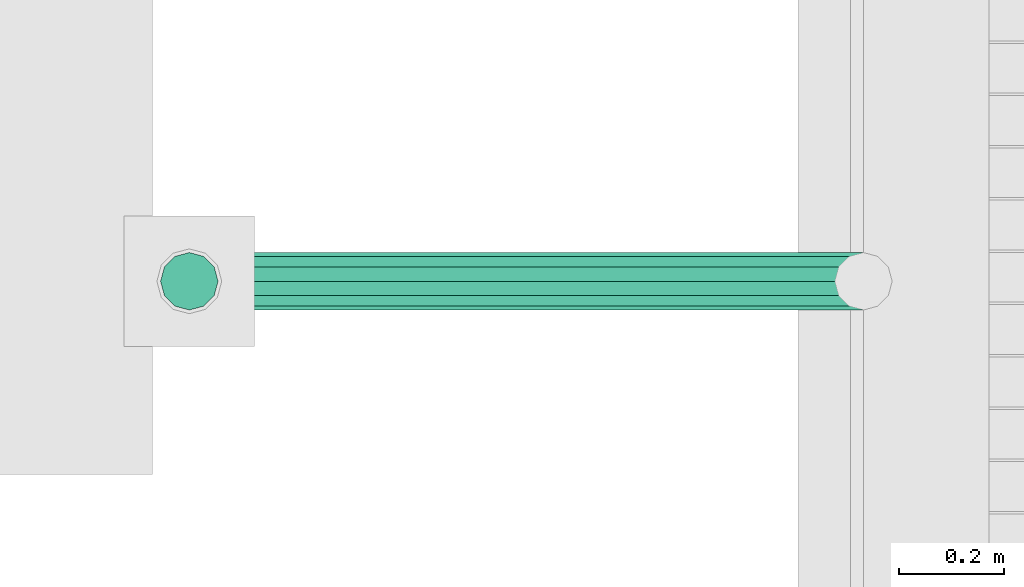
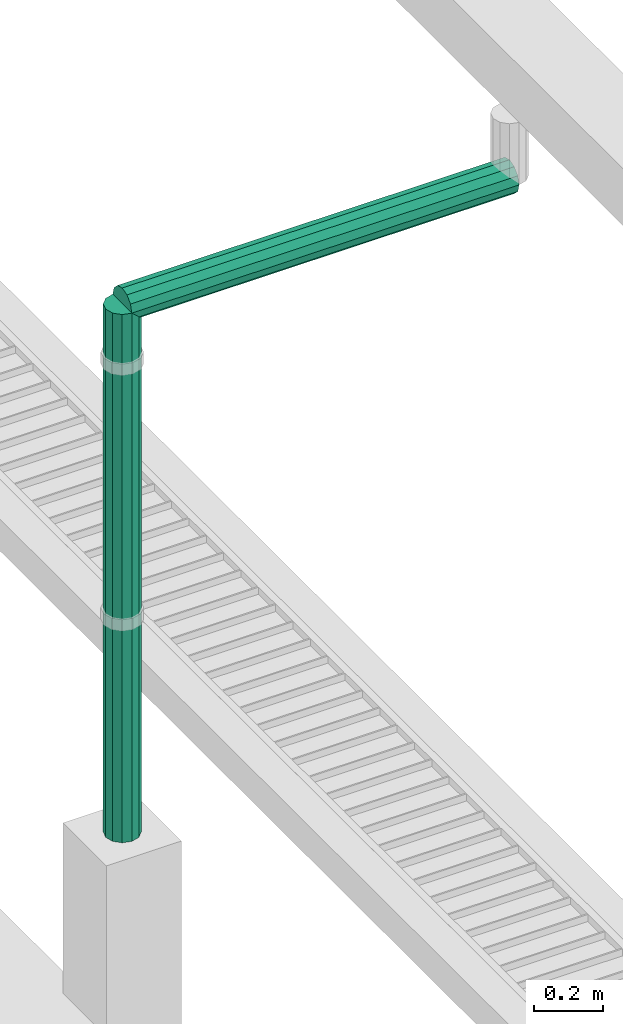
# One storey, part 46 of 90: 2 flow segments.
"""IFC2X3 building model written with IfcOpenShell, lengths in metres."""

from ifc_helpers import new_model, si_unit, origin, origin_with_axes, place, context, subcontext, project, spatial, faceted_brep, element, save


model = new_model("IFC2X3")

# Units and contexts
model_context = context("Model", 3, precision=1e-05, world=origin_with_axes())
body_context = subcontext(model_context, "Body", "Model", "MODEL_VIEW")
ifc_project = project(units=[si_unit("LENGTHUNIT", "METRE"), si_unit("AREAUNIT", "SQUARE_METRE"), si_unit("VOLUMEUNIT", "CUBIC_METRE"), si_unit("PLANEANGLEUNIT", "RADIAN")], contexts=[model_context])

# Site, building, storey
site_placement = place(None, origin_with_axes())
site = spatial("IfcSite", under=ifc_project, at=site_placement, Name="Predio Los Mangos - Morales, San Martín", CompositionType="ELEMENT")
building_placement = place(site_placement, origin())
building = spatial("IfcBuilding", under=site, at=building_placement, Name="Hogar de Refugio Temporal", CompositionType="ELEMENT")
storey_placement = place(building_placement, origin())
storey = spatial("IfcBuildingStorey", under=building, at=storey_placement, Name="NIVEL 1 (NPT +0.00)", CompositionType="ELEMENT", Elevation=0.0)

# Flow segments
flow_segment_1_placement = place(storey_placement, origin())
element("IfcFlowSegment", 1, at=flow_segment_1_placement, inside=storey, Name="montante_desvio", ObjectType="Montante PVC 4\"", context=body_context, shape_type="Brep", body=[
    faceted_brep([(67.88, 93.05, 2.965), (66.59, 93.05, 2.965), (66.59, 93.0225, 2.9576), (67.88, 93.0225, 2.9576), (66.59, 93.0024, 2.9375), (67.88, 93.0024, 2.9375), (66.59, 92.995, 2.91), (67.88, 92.995, 2.91), (66.59, 93.0024, 2.8825), (67.88, 93.0024, 2.8825), (66.59, 93.0225, 2.8624), (67.88, 93.0225, 2.8624), (66.59, 93.05, 2.855), (67.88, 93.05, 2.855), (66.59, 93.0775, 2.8624), (67.88, 93.0775, 2.8624), (66.59, 93.0976, 2.8825), (67.88, 93.0976, 2.8825), (66.59, 93.105, 2.91), (67.88, 93.105, 2.91), (66.59, 93.0976, 2.9375), (67.88, 93.0976, 2.9375), (66.59, 93.0775, 2.9576), (67.88, 93.0775, 2.9576)], [[[0, 1, 2, 3]], [[3, 2, 4, 5]], [[5, 4, 6, 7]], [[7, 6, 8, 9]], [[9, 8, 10, 11]], [[11, 10, 12, 13]], [[13, 12, 14, 15]], [[15, 14, 16, 17]], [[17, 16, 18, 19]], [[19, 18, 20, 21]], [[2, 1, 22, 20, 18, 16, 14, 12, 10, 8, 6, 4]], [[21, 20, 22, 23]], [[23, 22, 1, 0]], [[0, 3, 5, 7, 9, 11, 13, 15, 17, 19, 21, 23]]]),
])
flow_segment_2_placement = place(storey_placement, origin())
element("IfcFlowSegment", 2, at=flow_segment_2_placement, inside=storey, Name="montante_bajada", ObjectType="Montante PVC 4\"", context=body_context, shape_type="Brep", body=[
    faceted_brep([(66.59, 93.105, 2.91), (66.59, 93.105, 1.05), (66.5625, 93.0976, 1.05), (66.5625, 93.0976, 2.91), (66.5424, 93.0775, 1.05), (66.5424, 93.0775, 2.91), (66.535, 93.05, 1.05), (66.535, 93.05, 2.91), (66.5424, 93.0225, 1.05), (66.5424, 93.0225, 2.91), (66.5625, 93.0024, 1.05), (66.5625, 93.0024, 2.91), (66.59, 92.995, 1.05), (66.59, 92.995, 2.91), (66.6175, 93.0024, 1.05), (66.6175, 93.0024, 2.91), (66.6376, 93.0225, 1.05), (66.6376, 93.0225, 2.91), (66.645, 93.05, 1.05), (66.645, 93.05, 2.91), (66.6376, 93.0775, 1.05), (66.6376, 93.0775, 2.91), (66.6175, 93.0976, 1.05), (66.6175, 93.0976, 2.91)], [[[0, 1, 2, 3]], [[3, 2, 4, 5]], [[5, 4, 6, 7]], [[7, 6, 8, 9]], [[9, 8, 10, 11]], [[11, 10, 12, 13]], [[13, 12, 14, 15]], [[15, 14, 16, 17]], [[17, 16, 18, 19]], [[19, 18, 20, 21]], [[2, 1, 22, 20, 18, 16, 14, 12, 10, 8, 6, 4]], [[21, 20, 22, 23]], [[23, 22, 1, 0]], [[0, 3, 5, 7, 9, 11, 13, 15, 17, 19, 21, 23]]]),
])

save(model, "model.ifc")
